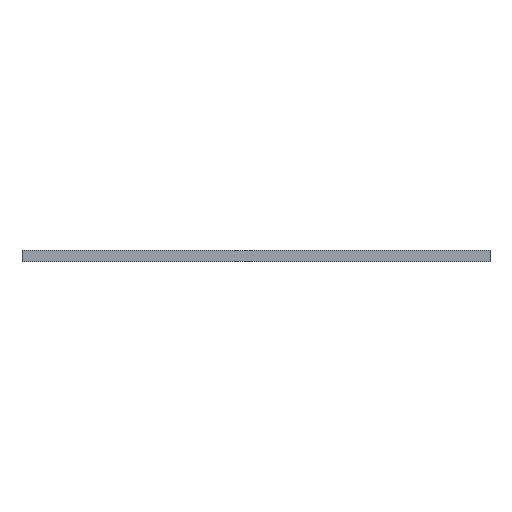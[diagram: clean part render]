
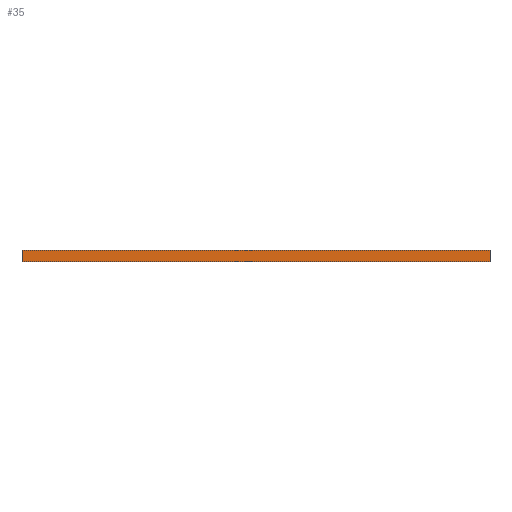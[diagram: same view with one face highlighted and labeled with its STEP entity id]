
A CAD part, front view. The second image highlights one B-rep face of the part: STEP entity #35.
In plain terms, the highlighted planar face has unit normal (0, -1, 0).
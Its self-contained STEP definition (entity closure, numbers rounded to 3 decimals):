
#35 = ADVANCED_FACE('',(#36),#50,.T.);
#36 = FACE_BOUND('',#37,.T.);
#37 = EDGE_LOOP('',(#38,#73,#101,#129));
#38 = ORIENTED_EDGE('',*,*,#39,.T.);
#39 = EDGE_CURVE('',#40,#42,#44,.T.);
#40 = VERTEX_POINT('',#41);
#41 = CARTESIAN_POINT('',(33.295,-28.88,0.));
#42 = VERTEX_POINT('',#43);
#43 = CARTESIAN_POINT('',(33.295,-28.88,1.58));
#44 = SURFACE_CURVE('',#45,(#49,#61),.PCURVE_S1.);
#45 = LINE('',#46,#47);
#46 = CARTESIAN_POINT('',(33.295,-28.88,0.));
#47 = VECTOR('',#48,1.);
#48 = DIRECTION('',(0.,0.,1.));
#49 = PCURVE('',#50,#55);
#50 = PLANE('',#51);
#51 = AXIS2_PLACEMENT_3D('',#52,#53,#54);
#52 = CARTESIAN_POINT('',(33.295,-28.88,0.));
#53 = DIRECTION('',(0.,-1.,0.));
#54 = DIRECTION('',(-1.,0.,0.));
#55 = DEFINITIONAL_REPRESENTATION('',(#56),#60);
#56 = LINE('',#57,#58);
#57 = CARTESIAN_POINT('',(0.,-0.));
#58 = VECTOR('',#59,1.);
#59 = DIRECTION('',(0.,-1.));
#60 = ( GEOMETRIC_REPRESENTATION_CONTEXT(2) 
PARAMETRIC_REPRESENTATION_CONTEXT() REPRESENTATION_CONTEXT('2D SPACE',''
  ) );
#61 = PCURVE('',#62,#67);
#62 = PLANE('',#63);
#63 = AXIS2_PLACEMENT_3D('',#64,#65,#66);
#64 = CARTESIAN_POINT('',(33.295,28.88,0.));
#65 = DIRECTION('',(1.,0.,-0.));
#66 = DIRECTION('',(0.,-1.,0.));
#67 = DEFINITIONAL_REPRESENTATION('',(#68),#72);
#68 = LINE('',#69,#70);
#69 = CARTESIAN_POINT('',(57.76,0.));
#70 = VECTOR('',#71,1.);
#71 = DIRECTION('',(0.,-1.));
#72 = ( GEOMETRIC_REPRESENTATION_CONTEXT(2) 
PARAMETRIC_REPRESENTATION_CONTEXT() REPRESENTATION_CONTEXT('2D SPACE',''
  ) );
#73 = ORIENTED_EDGE('',*,*,#74,.T.);
#74 = EDGE_CURVE('',#42,#75,#77,.T.);
#75 = VERTEX_POINT('',#76);
#76 = CARTESIAN_POINT('',(-33.295,-28.88,1.58));
#77 = SURFACE_CURVE('',#78,(#82,#89),.PCURVE_S1.);
#78 = LINE('',#79,#80);
#79 = CARTESIAN_POINT('',(33.295,-28.88,1.58));
#80 = VECTOR('',#81,1.);
#81 = DIRECTION('',(-1.,0.,0.));
#82 = PCURVE('',#50,#83);
#83 = DEFINITIONAL_REPRESENTATION('',(#84),#88);
#84 = LINE('',#85,#86);
#85 = CARTESIAN_POINT('',(0.,-1.58));
#86 = VECTOR('',#87,1.);
#87 = DIRECTION('',(1.,0.));
#88 = ( GEOMETRIC_REPRESENTATION_CONTEXT(2) 
PARAMETRIC_REPRESENTATION_CONTEXT() REPRESENTATION_CONTEXT('2D SPACE',''
  ) );
#89 = PCURVE('',#90,#95);
#90 = PLANE('',#91);
#91 = AXIS2_PLACEMENT_3D('',#92,#93,#94);
#92 = CARTESIAN_POINT('',(0.,0.,1.58));
#93 = DIRECTION('',(-0.,-0.,-1.));
#94 = DIRECTION('',(-1.,0.,0.));
#95 = DEFINITIONAL_REPRESENTATION('',(#96),#100);
#96 = LINE('',#97,#98);
#97 = CARTESIAN_POINT('',(-33.295,-28.88));
#98 = VECTOR('',#99,1.);
#99 = DIRECTION('',(1.,0.));
#100 = ( GEOMETRIC_REPRESENTATION_CONTEXT(2) 
PARAMETRIC_REPRESENTATION_CONTEXT() REPRESENTATION_CONTEXT('2D SPACE',''
  ) );
#101 = ORIENTED_EDGE('',*,*,#102,.F.);
#102 = EDGE_CURVE('',#103,#75,#105,.T.);
#103 = VERTEX_POINT('',#104);
#104 = CARTESIAN_POINT('',(-33.295,-28.88,0.));
#105 = SURFACE_CURVE('',#106,(#110,#117),.PCURVE_S1.);
#106 = LINE('',#107,#108);
#107 = CARTESIAN_POINT('',(-33.295,-28.88,0.));
#108 = VECTOR('',#109,1.);
#109 = DIRECTION('',(0.,0.,1.));
#110 = PCURVE('',#50,#111);
#111 = DEFINITIONAL_REPRESENTATION('',(#112),#116);
#112 = LINE('',#113,#114);
#113 = CARTESIAN_POINT('',(66.59,0.));
#114 = VECTOR('',#115,1.);
#115 = DIRECTION('',(0.,-1.));
#116 = ( GEOMETRIC_REPRESENTATION_CONTEXT(2) 
PARAMETRIC_REPRESENTATION_CONTEXT() REPRESENTATION_CONTEXT('2D SPACE',''
  ) );
#117 = PCURVE('',#118,#123);
#118 = PLANE('',#119);
#119 = AXIS2_PLACEMENT_3D('',#120,#121,#122);
#120 = CARTESIAN_POINT('',(-33.295,-28.88,0.));
#121 = DIRECTION('',(-1.,0.,0.));
#122 = DIRECTION('',(0.,1.,0.));
#123 = DEFINITIONAL_REPRESENTATION('',(#124),#128);
#124 = LINE('',#125,#126);
#125 = CARTESIAN_POINT('',(0.,0.));
#126 = VECTOR('',#127,1.);
#127 = DIRECTION('',(0.,-1.));
#128 = ( GEOMETRIC_REPRESENTATION_CONTEXT(2) 
PARAMETRIC_REPRESENTATION_CONTEXT() REPRESENTATION_CONTEXT('2D SPACE',''
  ) );
#129 = ORIENTED_EDGE('',*,*,#130,.F.);
#130 = EDGE_CURVE('',#40,#103,#131,.T.);
#131 = SURFACE_CURVE('',#132,(#136,#143),.PCURVE_S1.);
#132 = LINE('',#133,#134);
#133 = CARTESIAN_POINT('',(33.295,-28.88,0.));
#134 = VECTOR('',#135,1.);
#135 = DIRECTION('',(-1.,0.,0.));
#136 = PCURVE('',#50,#137);
#137 = DEFINITIONAL_REPRESENTATION('',(#138),#142);
#138 = LINE('',#139,#140);
#139 = CARTESIAN_POINT('',(0.,-0.));
#140 = VECTOR('',#141,1.);
#141 = DIRECTION('',(1.,0.));
#142 = ( GEOMETRIC_REPRESENTATION_CONTEXT(2) 
PARAMETRIC_REPRESENTATION_CONTEXT() REPRESENTATION_CONTEXT('2D SPACE',''
  ) );
#143 = PCURVE('',#144,#149);
#144 = PLANE('',#145);
#145 = AXIS2_PLACEMENT_3D('',#146,#147,#148);
#146 = CARTESIAN_POINT('',(0.,0.,0.));
#147 = DIRECTION('',(-0.,-0.,-1.));
#148 = DIRECTION('',(-1.,0.,0.));
#149 = DEFINITIONAL_REPRESENTATION('',(#150),#154);
#150 = LINE('',#151,#152);
#151 = CARTESIAN_POINT('',(-33.295,-28.88));
#152 = VECTOR('',#153,1.);
#153 = DIRECTION('',(1.,0.));
#154 = ( GEOMETRIC_REPRESENTATION_CONTEXT(2) 
PARAMETRIC_REPRESENTATION_CONTEXT() REPRESENTATION_CONTEXT('2D SPACE',''
  ) );
